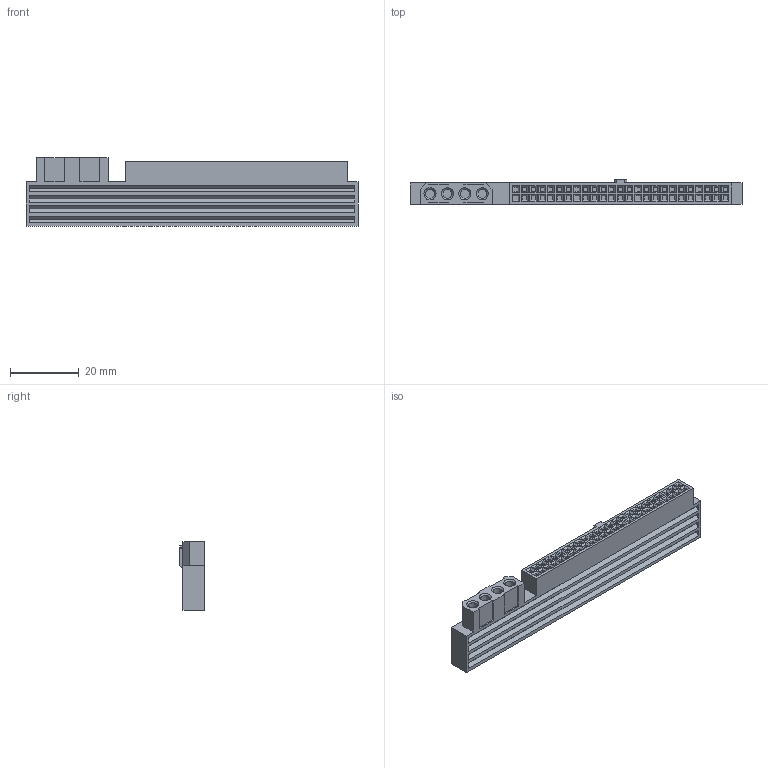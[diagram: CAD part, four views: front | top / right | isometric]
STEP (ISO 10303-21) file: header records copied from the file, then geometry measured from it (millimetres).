
FILE_DESCRIPTION(/* description */ (''),/* implementation_level */ '2;1');
FILE_NAME(/* name */ 'E:/OneDrive/projects/Reference Design Library/3.5 Hard Drive 50-pin SCSI PCB/3d_models/3.5_Hard_Drive_50-pin_SCSI_ED_Connector_Alignment_Tool_v1.stp',/* time_stamp */ '2022-01-20T23:44:44-05:00',/* author */ (''),/* organization */ (''),/* preprocessor_version */ 'ST-DEVELOPER v15.2',/* originating_system */ 'Autodesk Translator Framework v2.0.0.5431',/* authorisation */ '');
FILE_SCHEMA (('AUTOMOTIVE_DESIGN { 1 0 10303 214 3 1 1 }'));
Length unit declared in the file: centimetre
Products named in the file (1): 3.5_Hard_Drive_50-pin_SCSI_ED_Connector_Alignment_Tool_v1
Bounding box: 96.75 x 7.25 x 20 mm (x, y, z)
Volume: 9759 mm3; surface area: 7409.2 mm2
Topology: 1 solids, 1 shells, 535 faces, 1212 edges, 740 vertices
Faces by surface type: plane 523, cylinder 8, cone 4
Full cylindrical faces by diameter (mm): 2.644 x4
Entity records: 14373 total; most frequent: CARTESIAN_POINT 2480, ORIENTED_EDGE 2408, DIRECTION 2296, EDGE_CURVE 1204, LINE 1184, VECTOR 1184, VERTEX_POINT 740, EDGE_LOOP 604
